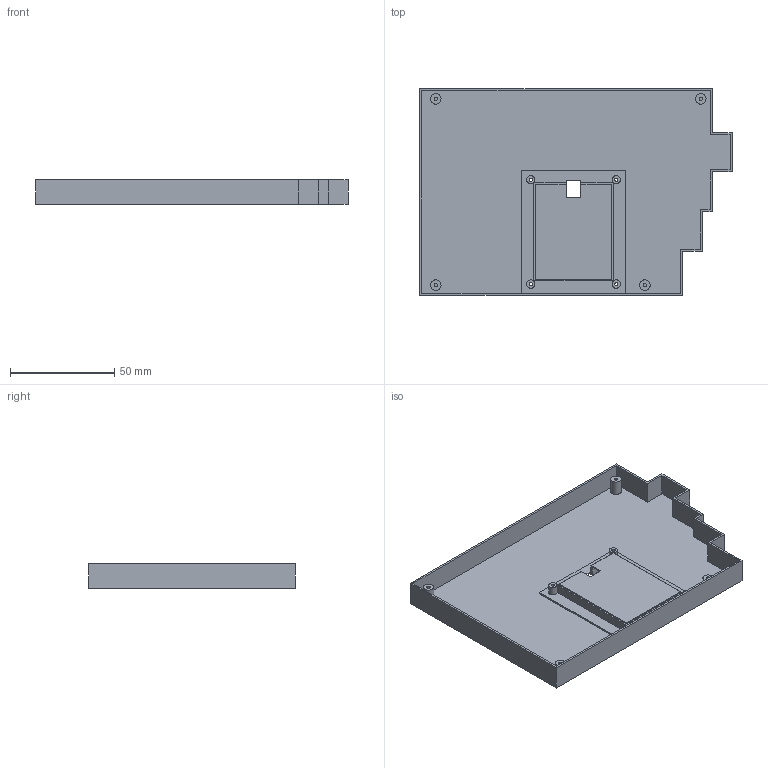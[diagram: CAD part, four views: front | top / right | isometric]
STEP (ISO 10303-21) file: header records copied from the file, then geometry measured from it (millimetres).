
FILE_DESCRIPTION(('Open CASCADE Model'),'2;1');
FILE_NAME('Open CASCADE Shape Model','2026-08-25T11:40:42',('Author'),( 'Open CASCADE'),'Open CASCADE STEP processor 7.9','Open CASCADE 7.9' ,'Unknown');
FILE_SCHEMA(('AUTOMOTIVE_DESIGN { 1 0 10303 214 1 1 1 1 }'));
Length unit declared in the file: millimetre
Products named in the file (1): Open CASCADE STEP translator 7.9 1
Bounding box: 149.66 x 99.15 x 11.9 mm (x, y, z)
Volume: 19744.7 mm3; surface area: 41254.1 mm2
Topology: 1 solids, 1 shells, 86 faces, 210 edges, 140 vertices
Faces by surface type: plane 70, cylinder 16
Full cylindrical faces by diameter (mm): 1.6 x8, 4 x4, 5 x4
Entity records: 5328 total; most frequent: CARTESIAN_POINT 1011, DIRECTION 802, LINE 556, VECTOR 556, ORIENTED_EDGE 420, PCURVE 420, DEFINITIONAL_REPRESENTATION 420, EDGE_CURVE 210
